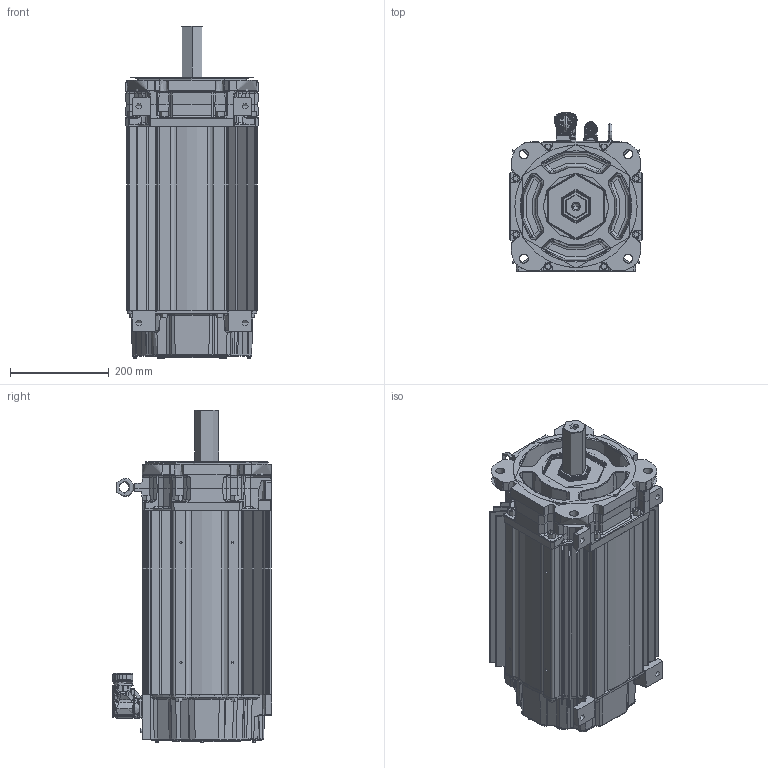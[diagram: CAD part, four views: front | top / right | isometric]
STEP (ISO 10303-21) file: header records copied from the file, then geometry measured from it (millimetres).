
FILE_DESCRIPTION((''),'2;1');
FILE_NAME('VPCB3003XXX4AS_ASM','2020-01-16T13:26:17',('VThimma'),('Rockwell Automation'),'CREO PARAMETRIC BY PTC INC, 2017380','CREO PARAMETRIC BY PTC INC, 2017380','');
FILE_SCHEMA(('CONFIG_CONTROL_DESIGN','SHAPE_APPEARANCE_LAYERS_GROUPS'));
Products named in the file (25): 10001441962; 10001404634_AF0; 10001404629_AF6; 10001404635_ASM; 10001585735; 10001442012_ASM; 10001439798_KEYLESS; 10001440031_ASM; 10001405269_AF0; 10001405367_ASM; 10001586887; 0002-5004; 10001609981; 10001737030; 10000014325-2; 10000014331; 10000014332-460; 10000014330-460_ASM; 10000172464; PWR40CONN-BRK; PWR40BASE; 10000806125_ASM; 221404-Q12; 10001408124; VPCB3003XXX4AS_ASM
Assembly tree (50 placements, depth 4):
  VPCB3003XXX4AS_ASM
    10001442012_ASM
      10001441962
      10001404635_ASM
        10001404634_AF0
        10001404629_AF6
      10001585735  x8
    10001440031_ASM
      10001439798_KEYLESS
    10001405367_ASM
      10001405269_AF0
    10001586887  x7
    0002-5004  x2
    10001609981
    10001737030
    10000014330-460_ASM
      10000014325-2
      10000014331
      10000014332-460
    10000172464  x4
    10000806125_ASM
      PWR40CONN-BRK
      PWR40BASE
    221404-Q12  x10
    10001408124
Bounding box: 269.49 x 324.05 x 673.83 mm (x, y, z)
Topology: 0 solids, 61 shells, 7045 faces, 18322 edges, 11391 vertices
Faces by surface type: cylinder 2227, plane 1650, bspline 1505, torus 877, cone 580, sphere 163, extrusion 42, revolution 1
Entity records: 356972 total; most frequent: CARTESIAN_POINT 136552, ORIENTED_EDGE 30157, DIRECTION 25482, PRESENTATION_STYLE_ASSIGNMENT 20938, STYLED_ITEM 20938, CURVE_STYLE 15188, EDGE_CURVE 15146, AXIS2_PLACEMENT_3D 10340
